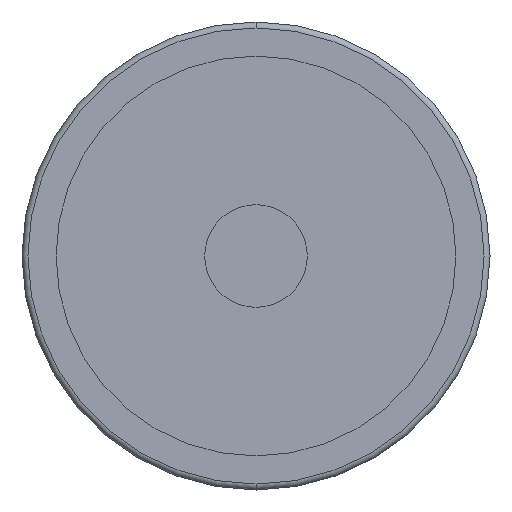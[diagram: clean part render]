
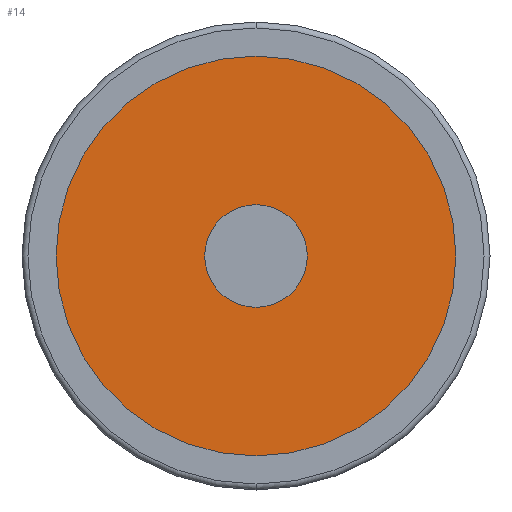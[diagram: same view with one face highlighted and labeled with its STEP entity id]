
A CAD part, front view. The second image highlights one B-rep face of the part: STEP entity #14.
In plain terms, the highlighted planar face has unit normal (0, -1, 0).
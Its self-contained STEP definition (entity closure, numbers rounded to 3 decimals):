
#14 = ADVANCED_FACE ( 'NONE', ( #2172, #444 ), #1377, .T. ) ;
#35 = AXIS2_PLACEMENT_3D ( 'NONE', #2356, #1200, #1740 ) ;
#172 = EDGE_CURVE ( 'NONE', #2060, #1437, #1158, .T. ) ;
#228 = AXIS2_PLACEMENT_3D ( 'NONE', #2219, #1289, #1272 ) ;
#333 = EDGE_CURVE ( 'NONE', #1205, #1131, #2384, .T. ) ;
#350 = ORIENTED_EDGE ( 'NONE', *, *, #1684, .F. ) ;
#374 = CARTESIAN_POINT ( 'NONE',  ( -8., 4.5, 0. ) ) ;
#425 = CIRCLE ( 'NONE', #1039, 8. ) ;
#444 = FACE_BOUND ( 'NONE', #523, .T. ) ;
#523 = EDGE_LOOP ( 'NONE', ( #568, #350 ) ) ;
#527 = DIRECTION ( 'NONE',  ( 0., -1., 0. ) ) ;
#568 = ORIENTED_EDGE ( 'NONE', *, *, #333, .F. ) ;
#640 = DIRECTION ( 'NONE',  ( 1., 0., 0. ) ) ;
#1039 = AXIS2_PLACEMENT_3D ( 'NONE', #1720, #2102, #1319 ) ;
#1071 = ORIENTED_EDGE ( 'NONE', *, *, #1236, .T. ) ;
#1131 = VERTEX_POINT ( 'NONE', #374 ) ;
#1139 = CARTESIAN_POINT ( 'NONE',  ( 0., 4.5, 0. ) ) ;
#1158 = CIRCLE ( 'NONE', #228, 34.25 ) ;
#1200 = DIRECTION ( 'NONE',  ( 0., -1., 0. ) ) ;
#1205 = VERTEX_POINT ( 'NONE', #2185 ) ;
#1236 = EDGE_CURVE ( 'NONE', #1437, #2060, #2313, .T. ) ;
#1272 = DIRECTION ( 'NONE',  ( 1., 0., 0. ) ) ;
#1289 = DIRECTION ( 'NONE',  ( 0., -1., 0. ) ) ;
#1319 = DIRECTION ( 'NONE',  ( 1., 0., 0. ) ) ;
#1353 = CARTESIAN_POINT ( 'NONE',  ( 34.25, 4.5, 0. ) ) ;
#1377 = PLANE ( 'NONE',  #35 ) ;
#1437 = VERTEX_POINT ( 'NONE', #1353 ) ;
#1684 = EDGE_CURVE ( 'NONE', #1131, #1205, #425, .T. ) ;
#1720 = CARTESIAN_POINT ( 'NONE',  ( 0., 4.5, 0. ) ) ;
#1740 = DIRECTION ( 'NONE',  ( 1., 0., 0. ) ) ;
#1760 = ORIENTED_EDGE ( 'NONE', *, *, #172, .T. ) ;
#1914 = DIRECTION ( 'NONE',  ( 1., 0., 0. ) ) ;
#1943 = DIRECTION ( 'NONE',  ( 0., -1., 0. ) ) ;
#1961 = CARTESIAN_POINT ( 'NONE',  ( 0., 4.5, 0. ) ) ;
#1988 = AXIS2_PLACEMENT_3D ( 'NONE', #1139, #527, #1914 ) ;
#2060 = VERTEX_POINT ( 'NONE', #2127 ) ;
#2102 = DIRECTION ( 'NONE',  ( 0., -1., 0. ) ) ;
#2127 = CARTESIAN_POINT ( 'NONE',  ( -34.25, 4.5, 0. ) ) ;
#2172 = FACE_OUTER_BOUND ( 'NONE', #2316, .T. ) ;
#2185 = CARTESIAN_POINT ( 'NONE',  ( 8., 4.5, 0. ) ) ;
#2219 = CARTESIAN_POINT ( 'NONE',  ( 0., 4.5, 0. ) ) ;
#2232 = AXIS2_PLACEMENT_3D ( 'NONE', #1961, #1943, #640 ) ;
#2313 = CIRCLE ( 'NONE', #2232, 34.25 ) ;
#2316 = EDGE_LOOP ( 'NONE', ( #1760, #1071 ) ) ;
#2356 = CARTESIAN_POINT ( 'NONE',  ( -34.25, 4.5, 0. ) ) ;
#2384 = CIRCLE ( 'NONE', #1988, 8. ) ;
